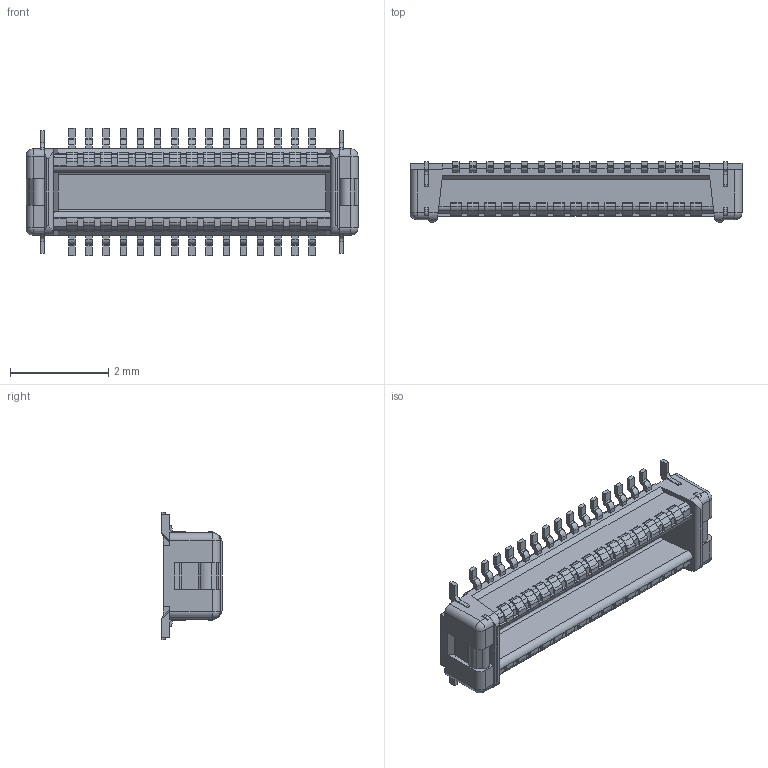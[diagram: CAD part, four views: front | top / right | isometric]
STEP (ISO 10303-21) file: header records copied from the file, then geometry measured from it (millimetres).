
FILE_DESCRIPTION (( 'STEP AP203' ), '1' );
FILE_NAME ('20842-30E-01-PLUG ASS''Y 3Dmodel.STEP', '2018-06-04T11:08:58', ( '' ), ( '' ), 'SwSTEP 2.0', 'SolidWorks 2017', '' );
FILE_SCHEMA (( 'CONFIG_CONTROL_DESIGN' ));
Length unit declared in the file: millimetre
Products named in the file (1): 20842-30E-01-PLUG ASS''Y 3Dmodel
Bounding box: 6.77 x 1.23 x 2.6 mm (x, y, z)
Volume: 8.3 mm3; surface area: 59 mm2
Topology: 1 solids, 1 shells, 898 faces, 2676 edges, 1776 vertices
Faces by surface type: plane 570, cylinder 324, sphere 4
Entity records: 30169 total; most frequent: CARTESIAN_POINT 5451, ORIENTED_EDGE 5344, DIRECTION 5070, EDGE_CURVE 2672, VECTOR 2008, LINE 2008, VERTEX_POINT 1776, AXIS2_PLACEMENT_3D 1531
